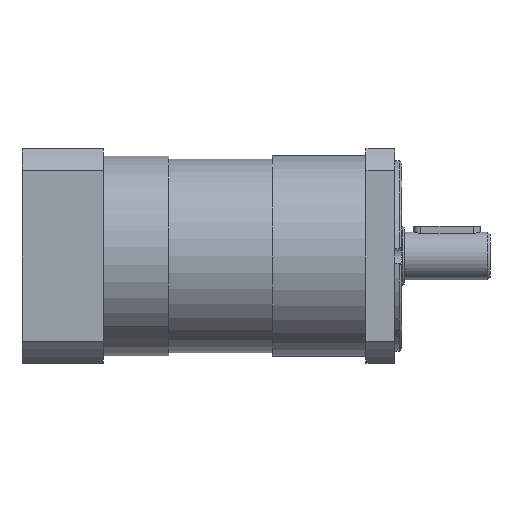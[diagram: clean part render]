
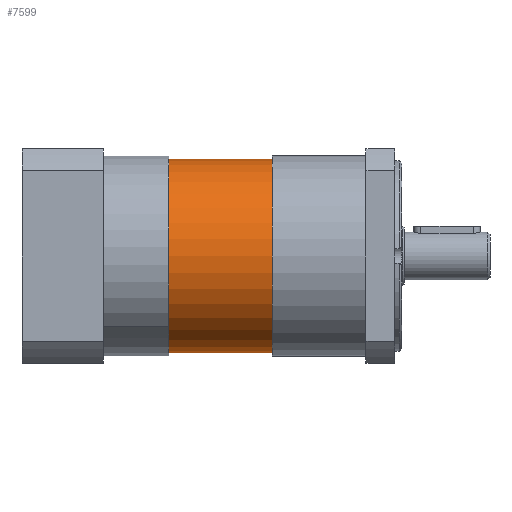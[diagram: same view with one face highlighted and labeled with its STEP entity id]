
A CAD part, left-side view. The second image highlights one B-rep face of the part: STEP entity #7599.
In plain terms, the highlighted cylindrical face has radius 40.5 mm (diameter 81 mm), a partial arc.
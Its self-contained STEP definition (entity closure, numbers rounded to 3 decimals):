
#448 = DIRECTION ( 'NONE',  ( 0., 1., 0. ) ) ;
#712 = ORIENTED_EDGE ( 'NONE', *, *, #2838, .F. ) ;
#1322 = VERTEX_POINT ( 'NONE', #6801 ) ;
#1365 = DIRECTION ( 'NONE',  ( 0., 0., 1. ) ) ;
#1885 = VERTEX_POINT ( 'NONE', #6589 ) ;
#1961 = CARTESIAN_POINT ( 'NONE',  ( 0., -15., 0. ) ) ;
#1982 = DIRECTION ( 'NONE',  ( 0., 1., 0. ) ) ;
#2002 = CIRCLE ( 'NONE', #6573, 40.5 ) ;
#2094 = DIRECTION ( 'NONE',  ( 0., 1., 0. ) ) ;
#2132 = VECTOR ( 'NONE', #448, 1000. ) ;
#2153 = CARTESIAN_POINT ( 'NONE',  ( 0., -25., 0. ) ) ;
#2269 = ORIENTED_EDGE ( 'NONE', *, *, #4726, .T. ) ;
#2513 = FACE_OUTER_BOUND ( 'NONE', #6230, .T. ) ;
#2740 = VERTEX_POINT ( 'NONE', #4137 ) ;
#2801 = DIRECTION ( 'NONE',  ( 0., 0., 1. ) ) ;
#2838 = EDGE_CURVE ( 'NONE', #3698, #1885, #4028, .T. ) ;
#2972 = CARTESIAN_POINT ( 'NONE',  ( 0., -73.5, 0. ) ) ;
#3347 = CARTESIAN_POINT ( 'NONE',  ( 0., -15., 40.5 ) ) ;
#3606 = DIRECTION ( 'NONE',  ( 0., 0., 1. ) ) ;
#3691 = CARTESIAN_POINT ( 'NONE',  ( 0., -73.5, -40.5 ) ) ;
#3698 = VERTEX_POINT ( 'NONE', #3691 ) ;
#4028 = LINE ( 'NONE', #8085, #2132 ) ;
#4137 = CARTESIAN_POINT ( 'NONE',  ( 0., -25., 40.5 ) ) ;
#4336 = EDGE_CURVE ( 'NONE', #1322, #2740, #6411, .T. ) ;
#4635 = ORIENTED_EDGE ( 'NONE', *, *, #4336, .T. ) ;
#4714 = VECTOR ( 'NONE', #2094, 1000. ) ;
#4726 = EDGE_CURVE ( 'NONE', #3698, #1322, #2002, .T. ) ;
#5370 = AXIS2_PLACEMENT_3D ( 'NONE', #1961, #1982, #1365 ) ;
#5636 = CIRCLE ( 'NONE', #5987, 40.5 ) ;
#5840 = EDGE_CURVE ( 'NONE', #1885, #2740, #5636, .T. ) ;
#5987 = AXIS2_PLACEMENT_3D ( 'NONE', #2153, #6663, #2801 ) ;
#6230 = EDGE_LOOP ( 'NONE', ( #712, #2269, #4635, #8095 ) ) ;
#6411 = LINE ( 'NONE', #3347, #4714 ) ;
#6573 = AXIS2_PLACEMENT_3D ( 'NONE', #2972, #7471, #3606 ) ;
#6589 = CARTESIAN_POINT ( 'NONE',  ( 0., -25., -40.5 ) ) ;
#6663 = DIRECTION ( 'NONE',  ( 0., 1., 0. ) ) ;
#6801 = CARTESIAN_POINT ( 'NONE',  ( 0., -73.5, 40.5 ) ) ;
#6820 = CYLINDRICAL_SURFACE ( 'NONE', #5370, 40.5 ) ;
#7471 = DIRECTION ( 'NONE',  ( 0., 1., 0. ) ) ;
#7599 = ADVANCED_FACE ( 'NONE', ( #2513 ), #6820, .T. ) ;
#8085 = CARTESIAN_POINT ( 'NONE',  ( 0., -15., -40.5 ) ) ;
#8095 = ORIENTED_EDGE ( 'NONE', *, *, #5840, .F. ) ;
